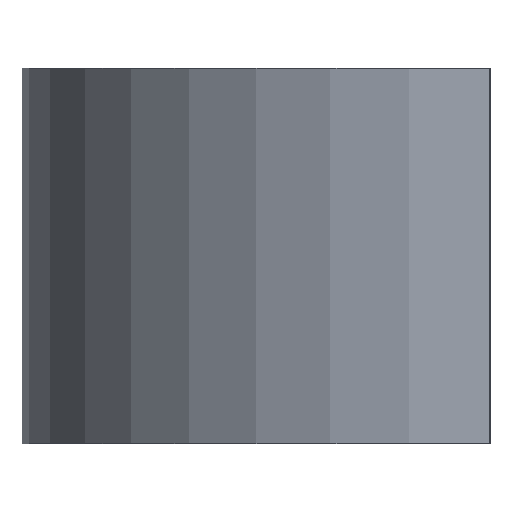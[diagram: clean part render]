
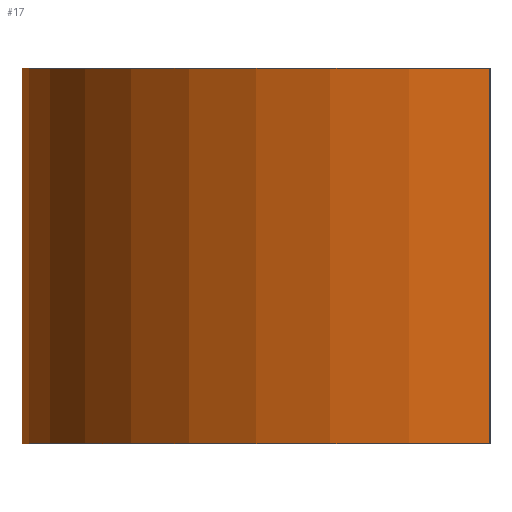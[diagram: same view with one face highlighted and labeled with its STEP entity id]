
A CAD part, front view. The second image highlights one B-rep face of the part: STEP entity #17.
In plain terms, the highlighted cylindrical face has radius 2.99 mm (diameter 5.98 mm), a partial arc.
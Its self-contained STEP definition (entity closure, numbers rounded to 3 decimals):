
#17 = ADVANCED_FACE('',(#18),#33,.T.);
#18 = FACE_BOUND('',#19,.T.);
#19 = EDGE_LOOP('',(#20,#56,#82,#111));
#20 = ORIENTED_EDGE('',*,*,#21,.F.);
#21 = EDGE_CURVE('',#22,#24,#26,.T.);
#22 = VERTEX_POINT('',#23);
#23 = CARTESIAN_POINT('',(0.,2.99,12.1));
#24 = VERTEX_POINT('',#25);
#25 = CARTESIAN_POINT('',(0.,-2.99,12.1));
#26 = SURFACE_CURVE('',#27,(#32,#44),.PCURVE_S1.);
#27 = CIRCLE('',#28,2.99);
#28 = AXIS2_PLACEMENT_3D('',#29,#30,#31);
#29 = CARTESIAN_POINT('',(0.,0.,12.1));
#30 = DIRECTION('',(0.,0.,1.));
#31 = DIRECTION('',(1.,0.,-0.));
#32 = PCURVE('',#33,#38);
#33 = CYLINDRICAL_SURFACE('',#34,2.99);
#34 = AXIS2_PLACEMENT_3D('',#35,#36,#37);
#35 = CARTESIAN_POINT('',(0.,0.,9.7));
#36 = DIRECTION('',(0.,0.,1.));
#37 = DIRECTION('',(1.,0.,-0.));
#38 = DEFINITIONAL_REPRESENTATION('',(#39),#43);
#39 = LINE('',#40,#41);
#40 = CARTESIAN_POINT('',(0.,2.4));
#41 = VECTOR('',#42,1.);
#42 = DIRECTION('',(1.,0.));
#43 = ( GEOMETRIC_REPRESENTATION_CONTEXT(2) 
PARAMETRIC_REPRESENTATION_CONTEXT() REPRESENTATION_CONTEXT('2D SPACE',''
  ) );
#44 = PCURVE('',#45,#50);
#45 = PLANE('',#46);
#46 = AXIS2_PLACEMENT_3D('',#47,#48,#49);
#47 = CARTESIAN_POINT('',(0.,0.,12.1));
#48 = DIRECTION('',(0.,0.,1.));
#49 = DIRECTION('',(1.,0.,-0.));
#50 = DEFINITIONAL_REPRESENTATION('',(#51),#55);
#51 = CIRCLE('',#52,2.99);
#52 = AXIS2_PLACEMENT_2D('',#53,#54);
#53 = CARTESIAN_POINT('',(0.,0.));
#54 = DIRECTION('',(1.,0.));
#55 = ( GEOMETRIC_REPRESENTATION_CONTEXT(2) 
PARAMETRIC_REPRESENTATION_CONTEXT() REPRESENTATION_CONTEXT('2D SPACE',''
  ) );
#56 = ORIENTED_EDGE('',*,*,#57,.F.);
#57 = EDGE_CURVE('',#58,#22,#60,.T.);
#58 = VERTEX_POINT('',#59);
#59 = CARTESIAN_POINT('',(0.,2.99,9.7));
#60 = SURFACE_CURVE('',#61,(#65,#71),.PCURVE_S1.);
#61 = LINE('',#62,#63);
#62 = CARTESIAN_POINT('',(0.,2.99,9.7));
#63 = VECTOR('',#64,1.);
#64 = DIRECTION('',(0.,0.,1.));
#65 = PCURVE('',#33,#66);
#66 = DEFINITIONAL_REPRESENTATION('',(#67),#70);
#67 = B_SPLINE_CURVE_WITH_KNOTS('',1,(#68,#69),.UNSPECIFIED.,.F.,.F.,(2,
    2),(0.,2.4),.PIECEWISE_BEZIER_KNOTS.);
#68 = CARTESIAN_POINT('',(1.571,0.));
#69 = CARTESIAN_POINT('',(1.571,2.4));
#70 = ( GEOMETRIC_REPRESENTATION_CONTEXT(2) 
PARAMETRIC_REPRESENTATION_CONTEXT() REPRESENTATION_CONTEXT('2D SPACE',''
  ) );
#71 = PCURVE('',#72,#77);
#72 = PLANE('',#73);
#73 = AXIS2_PLACEMENT_3D('',#74,#75,#76);
#74 = CARTESIAN_POINT('',(0.,-50.,-50.));
#75 = DIRECTION('',(1.,0.,0.));
#76 = DIRECTION('',(0.,0.,1.));
#77 = DEFINITIONAL_REPRESENTATION('',(#78),#81);
#78 = B_SPLINE_CURVE_WITH_KNOTS('',1,(#79,#80),.UNSPECIFIED.,.F.,.F.,(2,
    2),(0.,2.4),.PIECEWISE_BEZIER_KNOTS.);
#79 = CARTESIAN_POINT('',(59.7,-52.99));
#80 = CARTESIAN_POINT('',(62.1,-52.99));
#81 = ( GEOMETRIC_REPRESENTATION_CONTEXT(2) 
PARAMETRIC_REPRESENTATION_CONTEXT() REPRESENTATION_CONTEXT('2D SPACE',''
  ) );
#82 = ORIENTED_EDGE('',*,*,#83,.T.);
#83 = EDGE_CURVE('',#58,#84,#86,.T.);
#84 = VERTEX_POINT('',#85);
#85 = CARTESIAN_POINT('',(0.,-2.99,9.7));
#86 = SURFACE_CURVE('',#87,(#92,#99),.PCURVE_S1.);
#87 = CIRCLE('',#88,2.99);
#88 = AXIS2_PLACEMENT_3D('',#89,#90,#91);
#89 = CARTESIAN_POINT('',(0.,0.,9.7));
#90 = DIRECTION('',(0.,0.,1.));
#91 = DIRECTION('',(1.,0.,-0.));
#92 = PCURVE('',#33,#93);
#93 = DEFINITIONAL_REPRESENTATION('',(#94),#98);
#94 = LINE('',#95,#96);
#95 = CARTESIAN_POINT('',(0.,0.));
#96 = VECTOR('',#97,1.);
#97 = DIRECTION('',(1.,0.));
#98 = ( GEOMETRIC_REPRESENTATION_CONTEXT(2) 
PARAMETRIC_REPRESENTATION_CONTEXT() REPRESENTATION_CONTEXT('2D SPACE',''
  ) );
#99 = PCURVE('',#100,#105);
#100 = PLANE('',#101);
#101 = AXIS2_PLACEMENT_3D('',#102,#103,#104);
#102 = CARTESIAN_POINT('',(0.,0.,9.7));
#103 = DIRECTION('',(0.,0.,1.));
#104 = DIRECTION('',(1.,0.,-0.));
#105 = DEFINITIONAL_REPRESENTATION('',(#106),#110);
#106 = CIRCLE('',#107,2.99);
#107 = AXIS2_PLACEMENT_2D('',#108,#109);
#108 = CARTESIAN_POINT('',(0.,0.));
#109 = DIRECTION('',(1.,0.));
#110 = ( GEOMETRIC_REPRESENTATION_CONTEXT(2) 
PARAMETRIC_REPRESENTATION_CONTEXT() REPRESENTATION_CONTEXT('2D SPACE',''
  ) );
#111 = ORIENTED_EDGE('',*,*,#112,.T.);
#112 = EDGE_CURVE('',#84,#24,#113,.T.);
#113 = SURFACE_CURVE('',#114,(#118,#124),.PCURVE_S1.);
#114 = LINE('',#115,#116);
#115 = CARTESIAN_POINT('',(0.,-2.99,9.7));
#116 = VECTOR('',#117,1.);
#117 = DIRECTION('',(0.,0.,1.));
#118 = PCURVE('',#33,#119);
#119 = DEFINITIONAL_REPRESENTATION('',(#120),#123);
#120 = B_SPLINE_CURVE_WITH_KNOTS('',1,(#121,#122),.UNSPECIFIED.,.F.,.F.,
  (2,2),(0.,2.4),.PIECEWISE_BEZIER_KNOTS.);
#121 = CARTESIAN_POINT('',(4.712,0.));
#122 = CARTESIAN_POINT('',(4.712,2.4));
#123 = ( GEOMETRIC_REPRESENTATION_CONTEXT(2) 
PARAMETRIC_REPRESENTATION_CONTEXT() REPRESENTATION_CONTEXT('2D SPACE',''
  ) );
#124 = PCURVE('',#125,#130);
#125 = PLANE('',#126);
#126 = AXIS2_PLACEMENT_3D('',#127,#128,#129);
#127 = CARTESIAN_POINT('',(0.,-50.,-50.));
#128 = DIRECTION('',(1.,0.,0.));
#129 = DIRECTION('',(0.,0.,1.));
#130 = DEFINITIONAL_REPRESENTATION('',(#131),#134);
#131 = B_SPLINE_CURVE_WITH_KNOTS('',1,(#132,#133),.UNSPECIFIED.,.F.,.F.,
  (2,2),(0.,2.4),.PIECEWISE_BEZIER_KNOTS.);
#132 = CARTESIAN_POINT('',(59.7,-47.01));
#133 = CARTESIAN_POINT('',(62.1,-47.01));
#134 = ( GEOMETRIC_REPRESENTATION_CONTEXT(2) 
PARAMETRIC_REPRESENTATION_CONTEXT() REPRESENTATION_CONTEXT('2D SPACE',''
  ) );
